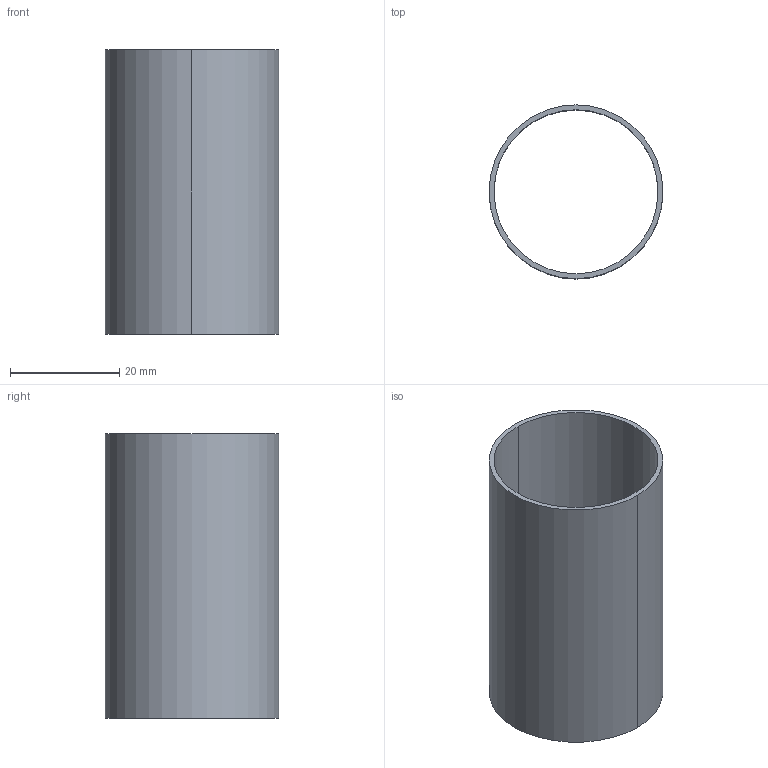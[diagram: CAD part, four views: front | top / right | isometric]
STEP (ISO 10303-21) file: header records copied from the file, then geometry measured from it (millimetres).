
FILE_DESCRIPTION(('STEP AP214'),'1');
FILE_NAME('tmp0.step','2025-04-06T17:35:06',(' '),(' '),'Spatial InterOp 3D',' ',' ');
FILE_SCHEMA(('AUTOMOTIVE_DESIGN { 1 0 10303 214 1 1 1 1 }'));
Length unit declared in the file: millimetre
Products named in the file (1): 1
Bounding box: 31.8 x 31.8 x 52 mm (x, y, z)
Volume: 4543.1 mm3; surface area: 10270.6 mm2
Topology: 1 solids, 1 shells, 6 faces, 12 edges, 8 vertices
Faces by surface type: cylinder 4, plane 2
Entity records: 193 total; most frequent: DIRECTION 34, CARTESIAN_POINT 27, ORIENTED_EDGE 24, AXIS2_PLACEMENT_3D 15, EDGE_CURVE 12, EDGE_LOOP 8, VERTEX_POINT 8, CIRCLE 8
